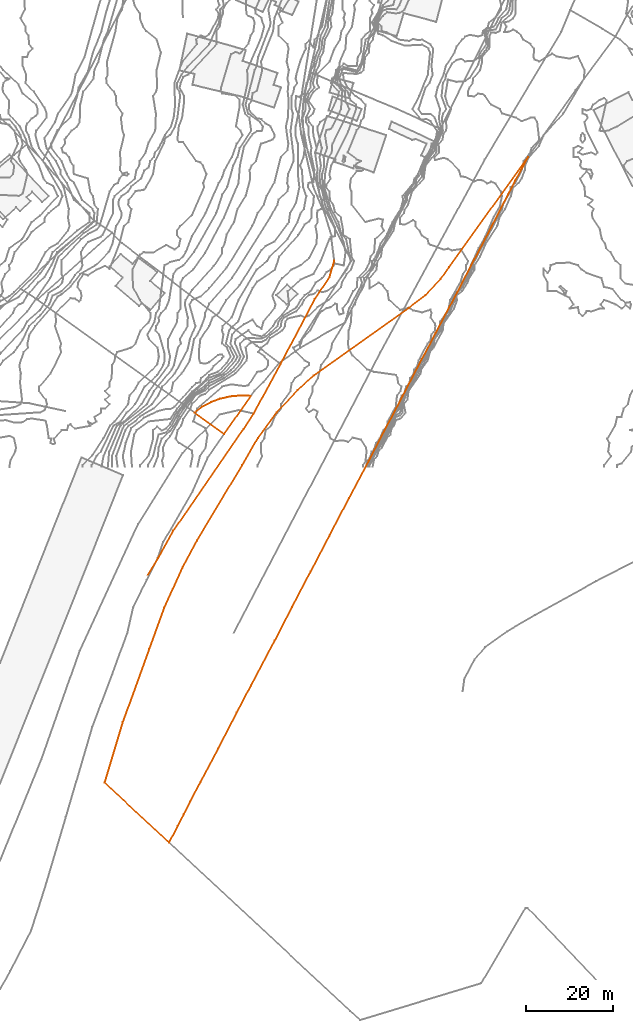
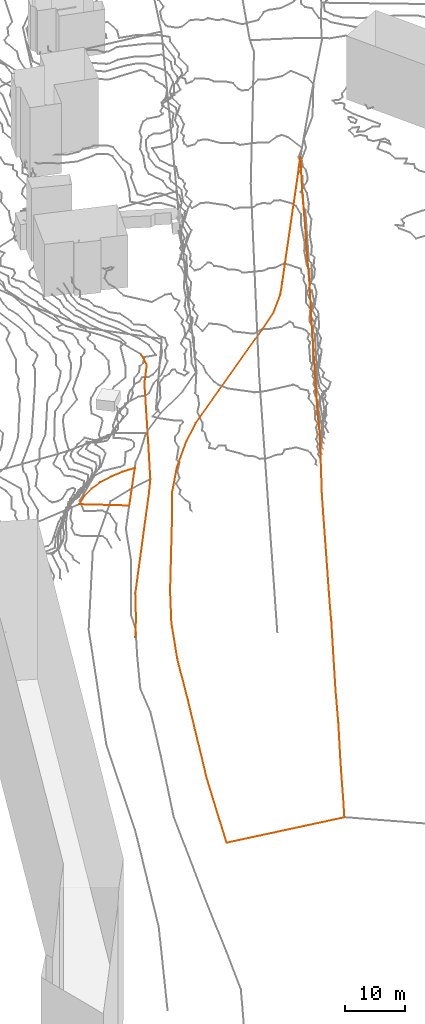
# Not in any storey, part 174 of 419: 5 proxies.
"""IFC2X3 model written with IfcOpenShell, lengths in metres."""

from ifc_helpers import new_model, entity, si_unit, frame, origin_with_axes, place, context, subcontext, project, element, save


model = new_model("IFC2X3")

# Units and contexts
model_context = context("Model", 3, precision=1e-05, world=origin_with_axes())
body_context = subcontext(model_context, "Body", "Model", "MODEL_VIEW")
ifc_project = project(units=[si_unit("AREAUNIT", "SQUARE_METRE"), si_unit("LENGTHUNIT", "METRE")], contexts=[model_context])

# Proxies
proxy_1_placement = place(None, frame((571.8920204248, -26.5023090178, 62.2), z_axis=(0.0, 0.0, 1.0), x_axis=(1.0, 0.0, 0.0)))
element("IfcBuildingElementProxy", 1, at=proxy_1_placement, Name="Route 6", ObjectType="NOTDEFINED", context=body_context, shape_type="GeometricCurveSet", body=[
    entity("IfcGeometricCurveSet", [entity("IfcPolyline", [entity("IfcCartesianPoint", [0.0, 0.0, 0.0]), entity("IfcCartesianPoint", [2.3999999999, 3.9000000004, 0.7]), entity("IfcCartesianPoint", [5.8999999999, 10.2000000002, 0.8]), entity("IfcCartesianPoint", [22.1, 33.7000000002, 1.3])])]),
])
proxy_2_placement = place(None, frame((593.9920204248, 7.1976909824, 63.5), z_axis=(0.0, 0.0, 1.0), x_axis=(1.0, 0.0, 0.0)))
element("IfcBuildingElementProxy", 2, at=proxy_2_placement, Name="Route 264", ObjectType="NOTDEFINED", context=body_context, shape_type="GeometricCurveSet", body=[
    entity("IfcGeometricCurveSet", [entity("IfcPolyline", [entity("IfcCartesianPoint", [0.0, 0.0, 0.0]), entity("IfcCartesianPoint", [2.2999999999, 3.5, 0.1])])]),
])
proxy_3_placement = place(None, frame((596.2920204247, 10.6976909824, 63.6), z_axis=(0.0, 0.0, 1.0), x_axis=(1.0, 0.0, 0.0)))
element("IfcBuildingElementProxy", 3, at=proxy_3_placement, Name="Route 266", ObjectType="NOTDEFINED", context=body_context, shape_type="GeometricCurveSet", body=[
    entity("IfcGeometricCurveSet", [entity("IfcPolyline", [entity("IfcCartesianPoint", [0.0, 0.0, 0.0]), entity("IfcCartesianPoint", [6.2000000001, 11.4000000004, -2.0]), entity("IfcCartesianPoint", [14.1000000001, 26.4000000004, -1.3]), entity("IfcCartesianPoint", [17.5, 31.5, -1.8]), entity("IfcCartesianPoint", [18.6000000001, 35.2999999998, -2.4])])]),
])
proxy_4_placement = place(None, frame((582.6420204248, 10.9076909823, 63.0722036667), z_axis=(0.0, 0.0, 1.0), x_axis=(1.0, 0.0, 0.0)))
element("IfcBuildingElementProxy", 4, at=proxy_4_placement, Name="Cadastre 319", ObjectType="NOTDEFINED", context=body_context, shape_type="GeometricCurveSet", body=[
    entity("IfcGeometricCurveSet", [entity("IfcPolyline", [entity("IfcCartesianPoint", [6.8199999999, -4.96, 0.3566411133]), entity("IfcCartesianPoint", [0.0, 0.0, 0.0]), entity("IfcCartesianPoint", [1.8099999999, 1.3700000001, 0.2648114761]), entity("IfcCartesianPoint", [3.7999999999, 2.4500000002, 0.4250548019]), entity("IfcCartesianPoint", [5.9299999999, 3.2300000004, 0.4544934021]), entity("IfcCartesianPoint", [8.37, 3.7800000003, 0.4524224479]), entity("IfcCartesianPoint", [10.6899999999, 3.9800000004, 0.515275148]), entity("IfcCartesianPoint", [13.01, 3.8799999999, 0.5438936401]), entity("IfcCartesianPoint", [6.8199999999, -4.96, 0.3566411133])])]),
])
proxy_5_placement = place(None, frame((561.9320204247, -74.4023090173, 52.7200010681), z_axis=(0.0, 0.0, 1.0), x_axis=(1.0, 0.0, 0.0)))
element("IfcBuildingElementProxy", 5, at=proxy_5_placement, Name="Cadastre 320", ObjectType="NOTDEFINED", context=body_context, shape_type="GeometricCurveSet", body=[
    entity("IfcGeometricCurveSet", [entity("IfcPolyline", [entity("IfcCartesianPoint", [14.8600000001, -13.7999999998, 8.3800004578]), entity("IfcCartesianPoint", [0.0, 0.0, 0.0]), entity("IfcCartesianPoint", [4.2200000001, 13.96, 3.2871981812]), entity("IfcCartesianPoint", [10.3200000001, 30.8300000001, 6.897998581]), entity("IfcCartesianPoint", [13.78, 40.3799999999, 8.3159980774]), entity("IfcCartesianPoint", [17.9600000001, 49.6299999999, 8.7069985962]), entity("IfcCartesianPoint", [21.29, 55.8200000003, 10.3711986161]), entity("IfcCartesianPoint", [31.75, 73.29, 10.9589973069]), entity("IfcCartesianPoint", [35.3500000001, 79.5099999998, 11.1844031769]), entity("IfcCartesianPoint", [39.62, 85.2999999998, 11.3643991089]), entity("IfcCartesianPoint", [44.5, 90.5700000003, 11.7315593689]), entity("IfcCartesianPoint", [48.1900000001, 93.8700000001, 12.191390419]), entity("IfcCartesianPoint", [70.05, 109.4299999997, 14.2705549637]), entity("IfcCartesianPoint", [74.0, 112.46, 14.5008875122]), entity("IfcCartesianPoint", [77.4300000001, 116.0899999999, 14.7631985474]), entity("IfcCartesianPoint", [79.42, 118.8700000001, 14.9459382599]), entity("IfcCartesianPoint", [97.6000000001, 144.2699999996, 18.8139399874]), entity("IfcCartesianPoint", [94.6900000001, 138.7800000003, 17.9749323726]), entity("IfcCartesianPoint", [93.01, 135.6399999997, 18.1420202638]), entity("IfcCartesianPoint", [89.2200000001, 128.2299999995, 17.8255226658]), entity("IfcCartesianPoint", [85.1800000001, 120.5599999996, 17.8773574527]), entity("IfcCartesianPoint", [81.28, 113.04, 18.379830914]), entity("IfcCartesianPoint", [76.3200000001, 103.6799999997, 17.2222464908]), entity("IfcCartesianPoint", [73.0800000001, 97.5199999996, 17.0280156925]), entity("IfcCartesianPoint", [68.7000000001, 89.1799999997, 16.7760857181]), entity("IfcCartesianPoint", [64.39, 80.9199999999, 15.9350535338]), entity("IfcCartesianPoint", [60.89, 74.1399999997, 17.0935549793]), entity("IfcCartesianPoint", [56.37, 65.6600000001, 11.9454983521]), entity("IfcCartesianPoint", [51.8400000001, 57.0199999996, 11.9117965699]), entity("IfcCartesianPoint", [47.53, 48.75, 11.8360966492]), entity("IfcCartesianPoint", [43.2100000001, 40.5099999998, 11.6429994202]), entity("IfcCartesianPoint", [39.26, 32.8399999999, 11.5859971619]), entity("IfcCartesianPoint", [33.76, 22.4500000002, 11.2159993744]), entity("IfcCartesianPoint", [30.4800000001, 16.2299999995, 10.8238002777]), entity("IfcCartesianPoint", [26.2200000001, 7.9000000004, 10.5655989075]), entity("IfcCartesianPoint", [22.1100000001, 0.2199999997, 10.4824988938]), entity("IfcCartesianPoint", [19.76, -4.3100000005, 9.607997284]), entity("IfcCartesianPoint", [18.2300000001, -7.3700000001, 8.7582992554]), entity("IfcCartesianPoint", [16.89, -9.96, 8.5652973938]), entity("IfcCartesianPoint", [14.8600000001, -13.7999999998, 8.3800004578])])]),
])

save(model, "model.ifc")
